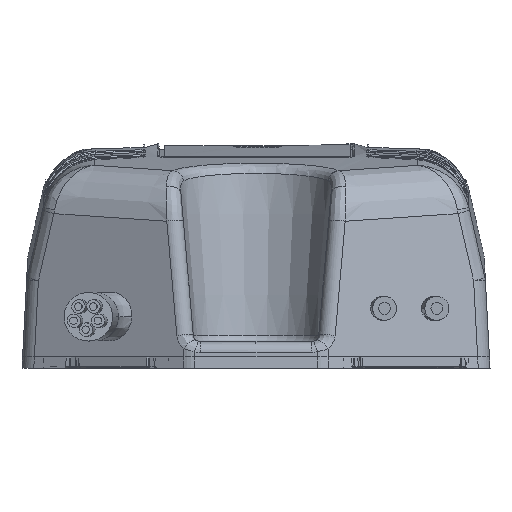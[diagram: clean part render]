
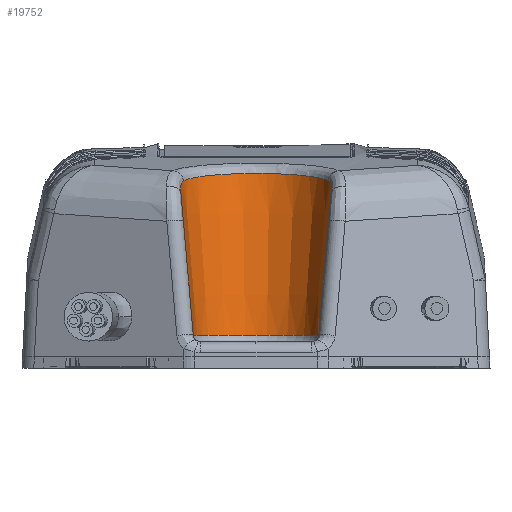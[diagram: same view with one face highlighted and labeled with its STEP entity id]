
A CAD part, front view. The second image highlights one B-rep face of the part: STEP entity #19752.
In plain terms, the highlighted conical face has half-angle 5 degrees and reference radius 8 mm.
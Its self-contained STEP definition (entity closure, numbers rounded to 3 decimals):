
#11459=VERTEX_POINT('',#11458) ;
#11487=VERTEX_POINT('',#11486) ;
#17839=VERTEX_POINT('',#17838) ;
#19720=VERTEX_POINT('',#19719) ;
#19727=VERTEX_POINT('',#19726) ;
#19734=VERTEX_POINT('',#19733) ;
#19717=VECTOR('Line Direction',#19716,1.) ;
#19731=VECTOR('Line Direction',#19730,1.) ;
#19711=DIRECTION('Axis2P3D Direction',(0.,0.,1.)) ;
#19712=DIRECTION('Axis2P3D XDirection',(1.,0.,0.)) ;
#19716=DIRECTION('Vector Direction',(-0.087,0.,0.996)) ;
#19723=DIRECTION('Axis2P3D Direction',(0.,0.,1.)) ;
#19730=DIRECTION('Vector Direction',(0.087,0.,0.996)) ;
#11458=CARTESIAN_POINT('Vertex',(-9.901,-55.295,25.051)) ;
#11462=CARTESIAN_POINT('Control Point',(9.517,-55.295,25.051)) ;
#11463=CARTESIAN_POINT('Control Point',(9.437,-55.031,25.09)) ;
#11464=CARTESIAN_POINT('Control Point',(9.348,-54.771,25.129)) ;
#11465=CARTESIAN_POINT('Control Point',(9.249,-54.513,25.167)) ;
#11466=CARTESIAN_POINT('Control Point',(8.822,-53.498,25.316)) ;
#11467=CARTESIAN_POINT('Control Point',(8.258,-52.544,25.453)) ;
#11468=CARTESIAN_POINT('Control Point',(7.763,-51.872,25.546)) ;
#11469=CARTESIAN_POINT('Control Point',(6.644,-50.644,25.715)) ;
#11470=CARTESIAN_POINT('Control Point',(5.295,-49.663,25.845)) ;
#11471=CARTESIAN_POINT('Control Point',(4.575,-49.244,25.9)) ;
#11472=CARTESIAN_POINT('Control Point',(3.062,-48.561,25.988)) ;
#11473=CARTESIAN_POINT('Control Point',(1.44,-48.195,26.035)) ;
#11474=CARTESIAN_POINT('Control Point',(0.614,-48.096,26.047)) ;
#11475=CARTESIAN_POINT('Control Point',(-1.045,-48.066,26.051)) ;
#11476=CARTESIAN_POINT('Control Point',(-2.676,-48.371,26.012)) ;
#11477=CARTESIAN_POINT('Control Point',(-3.472,-48.605,25.983)) ;
#11478=CARTESIAN_POINT('Control Point',(-5.008,-49.233,25.902)) ;
#11479=CARTESIAN_POINT('Control Point',(-6.383,-50.154,25.78)) ;
#11480=CARTESIAN_POINT('Control Point',(-7.021,-50.684,25.709)) ;
#11481=CARTESIAN_POINT('Control Point',(-8.145,-51.828,25.553)) ;
#11482=CARTESIAN_POINT('Control Point',(-9.022,-53.163,25.364)) ;
#11483=CARTESIAN_POINT('Control Point',(-9.384,-53.848,25.266)) ;
#11484=CARTESIAN_POINT('Control Point',(-9.677,-54.561,25.161)) ;
#11485=CARTESIAN_POINT('Control Point',(-9.901,-55.295,25.051)) ;
#11486=CARTESIAN_POINT('Vertex',(9.517,-55.295,25.051)) ;
#17838=CARTESIAN_POINT('Vertex',(-10.234,-58.393,23.335)) ;
#17945=CARTESIAN_POINT('Control Point',(-9.901,-55.295,25.051)) ;
#17946=CARTESIAN_POINT('Control Point',(-9.958,-55.479,25.023)) ;
#17947=CARTESIAN_POINT('Control Point',(-10.008,-55.662,24.985)) ;
#17948=CARTESIAN_POINT('Control Point',(-10.052,-55.843,24.937)) ;
#17949=CARTESIAN_POINT('Control Point',(-10.131,-56.214,24.818)) ;
#17950=CARTESIAN_POINT('Control Point',(-10.187,-56.569,24.663)) ;
#17951=CARTESIAN_POINT('Control Point',(-10.21,-56.749,24.575)) ;
#17952=CARTESIAN_POINT('Control Point',(-10.258,-57.222,24.316)) ;
#17953=CARTESIAN_POINT('Control Point',(-10.271,-57.659,24.008)) ;
#17954=CARTESIAN_POINT('Control Point',(-10.267,-57.919,23.797)) ;
#17955=CARTESIAN_POINT('Control Point',(-10.254,-58.164,23.572)) ;
#17956=CARTESIAN_POINT('Control Point',(-10.234,-58.393,23.335)) ;
#19710=CARTESIAN_POINT('Axis2P3D Location',(-0.192,-58.393,0.)) ;
#19715=CARTESIAN_POINT('Line Origine',(-9.539,-58.393,15.395)) ;
#19719=CARTESIAN_POINT('Vertex',(-8.578,-58.393,4.413)) ;
#19722=CARTESIAN_POINT('Axis2P3D Location',(-0.192,-58.393,4.413)) ;
#19726=CARTESIAN_POINT('Vertex',(8.194,-58.393,4.413)) ;
#19729=CARTESIAN_POINT('Line Origine',(9.155,-58.393,15.395)) ;
#19733=CARTESIAN_POINT('Vertex',(9.85,-58.393,23.335)) ;
#19737=CARTESIAN_POINT('Control Point',(9.517,-55.295,25.051)) ;
#19738=CARTESIAN_POINT('Control Point',(9.737,-56.015,24.943)) ;
#19739=CARTESIAN_POINT('Control Point',(9.863,-56.72,24.669)) ;
#19740=CARTESIAN_POINT('Control Point',(9.902,-57.343,24.288)) ;
#19741=CARTESIAN_POINT('Control Point',(9.894,-57.903,23.842)) ;
#19742=CARTESIAN_POINT('Control Point',(9.85,-58.393,23.335)) ;
#19713=AXIS2_PLACEMENT_3D('Cone Axis2P3D',#19710,#19711,#19712) ;
#19724=AXIS2_PLACEMENT_3D('Circle Axis2P3D',#19722,#19723,$) ;
#19725=CIRCLE('generated circle',#19724,8.386) ;
#19714=CONICAL_SURFACE('Cone',#19713,8.,0.087) ;
#19718=LINE('Line',#19715,#19717) ;
#19732=LINE('Line',#19729,#19731) ;
#11488=EDGE_CURVE('',#11487,#11459,#11461,.T.) ;
#17957=EDGE_CURVE('',#11459,#17839,#17944,.T.) ;
#19721=EDGE_CURVE('',#19720,#17839,#19718,.T.) ;
#19728=EDGE_CURVE('',#19720,#19727,#19725,.F.) ;
#19735=EDGE_CURVE('',#19727,#19734,#19732,.T.) ;
#19743=EDGE_CURVE('',#19734,#11487,#19736,.F.) ;
#19745=ORIENTED_EDGE('',*,*,#17957,.T.) ;
#19746=ORIENTED_EDGE('',*,*,#19721,.F.) ;
#19747=ORIENTED_EDGE('',*,*,#19728,.T.) ;
#19748=ORIENTED_EDGE('',*,*,#19735,.T.) ;
#19749=ORIENTED_EDGE('',*,*,#19743,.T.) ;
#19750=ORIENTED_EDGE('',*,*,#11488,.T.) ;
#19744=EDGE_LOOP('',(#19745,#19746,#19747,#19748,#19749,#19750)) ;
#19752=ADVANCED_FACE('Body.main',(#19751),#19714,.F.) ;
#11461=B_SPLINE_CURVE_WITH_KNOTS('',5,(#11462,#11463,#11464,#11465,#11466,#11467,#11468,#11469,#11470,#11471,#11472,#11473,#11474,#11475,#11476,#11477,#11478,#11479,#11480,#11481,#11482,#11483,#11484,#11485),.UNSPECIFIED.,.F.,.U.,(6,3,3,3,3,3,3,6),(26.696,28.632,34.426,40.172,45.889,51.603,57.339,62.736),.UNIFORM_KNOTS.) ;
#17944=B_SPLINE_CURVE_WITH_KNOTS('',5,(#17945,#17946,#17947,#17948,#17949,#17950,#17951,#17952,#17953,#17954,#17955,#17956),.UNSPECIFIED.,.F.,.U.,(6,3,3,6),(1.786,3.077,4.466,6.831),.UNIFORM_KNOTS.) ;
#19736=B_SPLINE_CURVE_WITH_KNOTS('',5,(#19737,#19738,#19739,#19740,#19741,#19742),.UNSPECIFIED.,.F.,.U.,(6,6),(1.785,6.83),.UNIFORM_KNOTS.) ;
#19751=FACE_OUTER_BOUND('',#19744,.T.) ;
